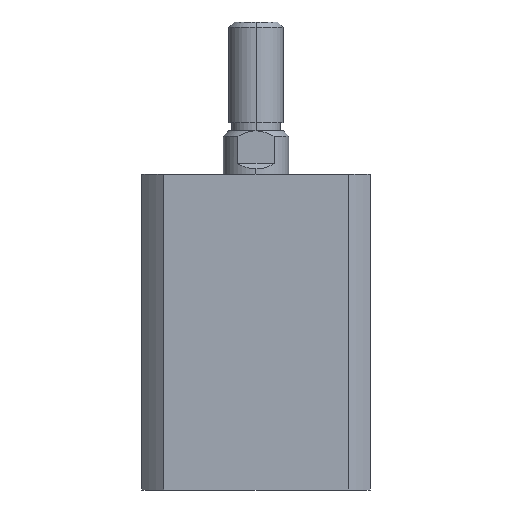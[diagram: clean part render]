
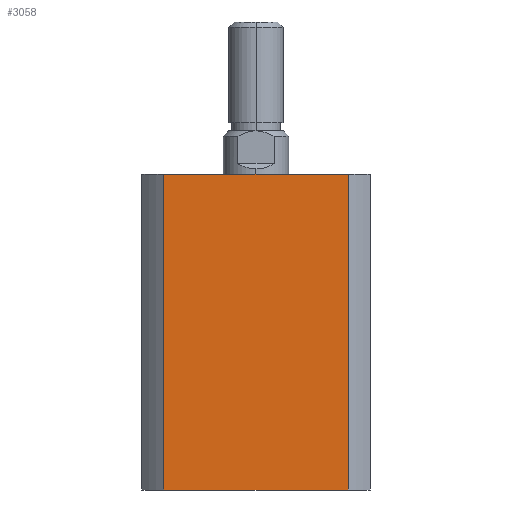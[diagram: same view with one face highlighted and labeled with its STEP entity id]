
A CAD part, left-side view. The second image highlights one B-rep face of the part: STEP entity #3058.
In plain terms, the highlighted planar face has unit normal (-1, 0, 0).
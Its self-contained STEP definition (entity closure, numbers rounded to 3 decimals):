
#1028 = DIRECTION ( 'NONE',  ( 0., 0., 1. ) ) ;
#1029 = CARTESIAN_POINT ( 'NONE',  ( -21., 16.971, 58. ) ) ;
#1030 = DIRECTION ( 'NONE',  ( 0., 0., -1. ) ) ;
#1033 = CARTESIAN_POINT ( 'NONE',  ( -21., -16.971, 58. ) ) ;
#1065 = CARTESIAN_POINT ( 'NONE',  ( -21., 21., 58. ) ) ;
#1074 = DIRECTION ( 'NONE',  ( 0., -1., 0. ) ) ;
#1116 = VECTOR ( 'NONE', #1028, 1000. ) ;
#1120 = LINE ( 'NONE', #1033, #1190 ) ;
#1190 = VECTOR ( 'NONE', #1030, 1000. ) ;
#1230 = VECTOR ( 'NONE', #1074, 1000. ) ;
#1244 = VECTOR ( 'NONE', #2569, 1000. ) ;
#1259 = LINE ( 'NONE', #2564, #1244 ) ;
#1356 = LINE ( 'NONE', #1029, #1116 ) ;
#1362 = LINE ( 'NONE', #1065, #1230 ) ;
#1552 = FACE_OUTER_BOUND ( 'NONE', #4611, .T. ) ;
#1948 = ORIENTED_EDGE ( 'NONE', *, *, #4126, .F. ) ;
#1949 = ORIENTED_EDGE ( 'NONE', *, *, #4118, .F. ) ;
#1950 = ORIENTED_EDGE ( 'NONE', *, *, #4127, .F. ) ;
#1951 = ORIENTED_EDGE ( 'NONE', *, *, #4080, .T. ) ;
#2120 = VERTEX_POINT ( 'NONE', #3954 ) ;
#2146 = VERTEX_POINT ( 'NONE', #3929 ) ;
#2158 = VERTEX_POINT ( 'NONE', #3875 ) ;
#2251 = VERTEX_POINT ( 'NONE', #3540 ) ;
#2564 = CARTESIAN_POINT ( 'NONE',  ( -21., 21., 0. ) ) ;
#2569 = DIRECTION ( 'NONE',  ( 0., -1., 0. ) ) ;
#2996 = AXIS2_PLACEMENT_3D ( 'NONE', #3265, #3259, #3258 ) ;
#3058 = ADVANCED_FACE ( 'NONE', ( #1552 ), #3262, .F. ) ;
#3258 = DIRECTION ( 'NONE',  ( 0., 1., 0. ) ) ;
#3259 = DIRECTION ( 'NONE',  ( 1., 0., 0. ) ) ;
#3262 = PLANE ( 'NONE',  #2996 ) ;
#3265 = CARTESIAN_POINT ( 'NONE',  ( -21., 21., 58. ) ) ;
#3540 = CARTESIAN_POINT ( 'NONE',  ( -21., 16.971, 58. ) ) ;
#3875 = CARTESIAN_POINT ( 'NONE',  ( -21., -16.971, 0. ) ) ;
#3929 = CARTESIAN_POINT ( 'NONE',  ( -21., -16.971, 58. ) ) ;
#3954 = CARTESIAN_POINT ( 'NONE',  ( -21., 16.971, 0. ) ) ;
#4080 = EDGE_CURVE ( 'NONE', #2120, #2158, #1259, .T. ) ;
#4118 = EDGE_CURVE ( 'NONE', #2251, #2146, #1362, .T. ) ;
#4126 = EDGE_CURVE ( 'NONE', #2146, #2158, #1120, .T. ) ;
#4127 = EDGE_CURVE ( 'NONE', #2120, #2251, #1356, .T. ) ;
#4611 = EDGE_LOOP ( 'NONE', ( #1948, #1949, #1950, #1951 ) ) ;
